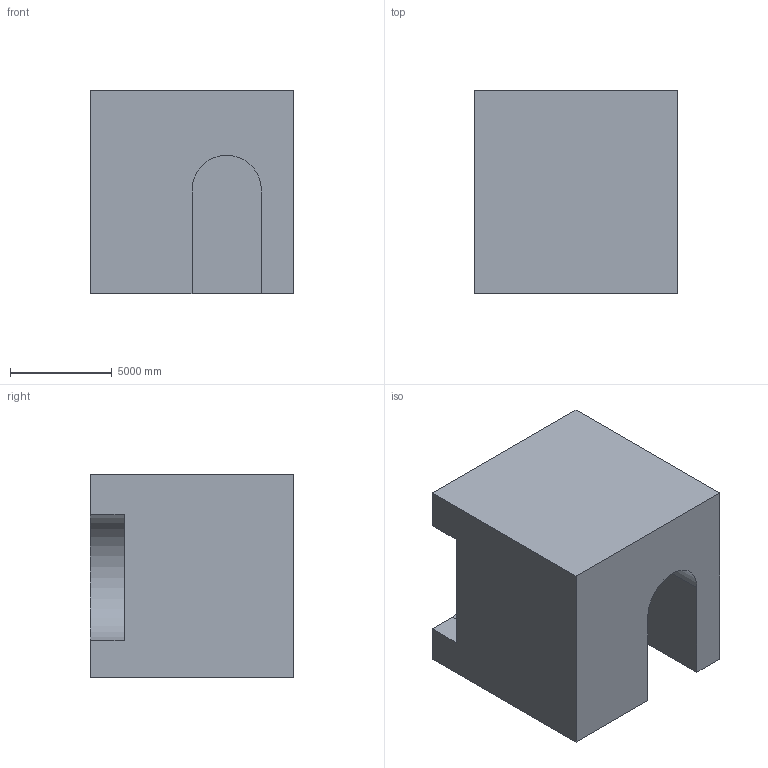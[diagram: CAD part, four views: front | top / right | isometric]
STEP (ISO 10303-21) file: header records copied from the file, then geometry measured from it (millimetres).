
FILE_DESCRIPTION (( 'STEP AP203' ), '1' );
FILE_NAME ('212.STEP', '2022-09-07T12:18:36', ( 'user' ), ( '' ), 'SwSTEP 2.0', 'SolidWorks 2021', '' );
FILE_SCHEMA (( 'CONFIG_CONTROL_DESIGN' ));
Length unit declared in the file: centimetre
Products named in the file (1): 212
Bounding box: 10000 x 10000 x 10000 mm (x, y, z)
Volume: 819673731952.9 mm3; surface area: 688401133.4 mm2
Topology: 1 solids, 1 shells, 14 faces, 36 edges, 24 vertices
Faces by surface type: plane 12, cylinder 2
Entity records: 501 total; most frequent: CARTESIAN_POINT 75, ORIENTED_EDGE 72, DIRECTION 70, EDGE_CURVE 36, VECTOR 32, LINE 32, VERTEX_POINT 24, AXIS2_PLACEMENT_3D 19
